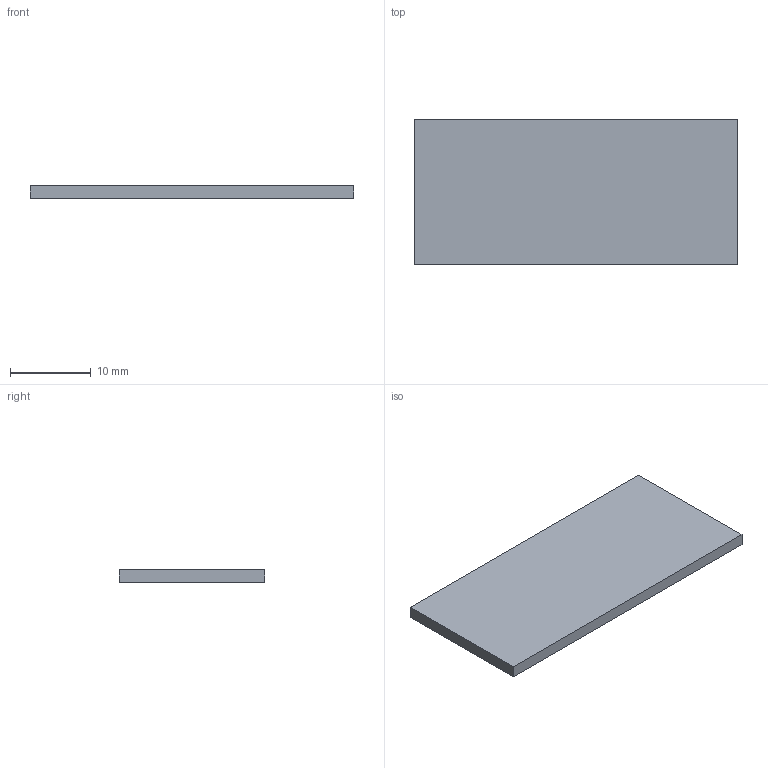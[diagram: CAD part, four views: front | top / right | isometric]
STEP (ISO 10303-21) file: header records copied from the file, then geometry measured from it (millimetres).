
FILE_DESCRIPTION(('KiCad electronic assembly'),'2;1');
FILE_NAME('board.step','2026-08-08T16:01:41',('Pcbnew'),('Kicad'), 'Open CASCADE STEP processor 7.9','KiCad to STEP converter','Unknown' );
FILE_SCHEMA(('AUTOMOTIVE_DESIGN { 1 0 10303 214 1 1 1 1 }'));
Length unit declared in the file: millimetre
Products named in the file (2): board 1; edge_io_rings_PCB
Assembly tree (1 placements, depth 2):
  board 1
    edge_io_rings_PCB
Bounding box: 40 x 18 x 1.52 mm (x, y, z)
Volume: 1094.4 mm3; surface area: 1616.3 mm2
Topology: 1 solids, 1 shells, 6 faces, 12 edges, 8 vertices
Faces by surface type: plane 6
Entity records: 193 total; most frequent: CARTESIAN_POINT 28, DIRECTION 28, ORIENTED_EDGE 24, EDGE_CURVE 12, LINE 12, VECTOR 12, AXIS2_PLACEMENT_3D 8, VERTEX_POINT 8
